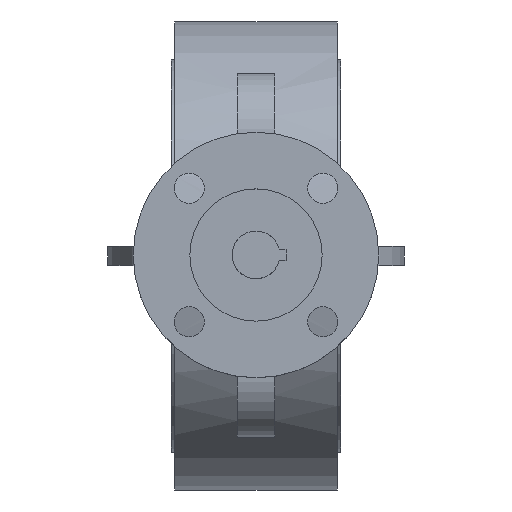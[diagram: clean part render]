
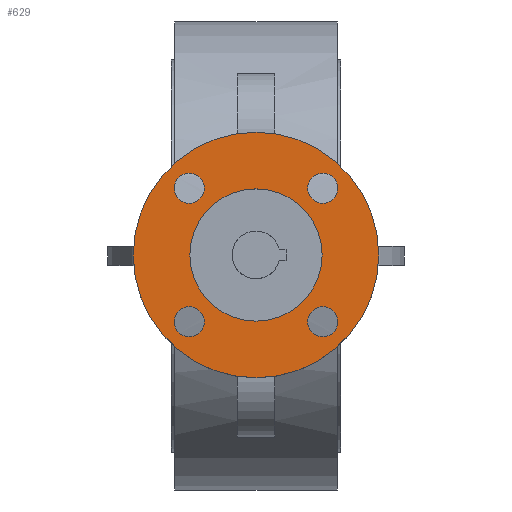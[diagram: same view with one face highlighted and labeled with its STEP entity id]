
A CAD part, top view. The second image highlights one B-rep face of the part: STEP entity #629.
In plain terms, the highlighted planar face has unit normal (0, 0, 1).
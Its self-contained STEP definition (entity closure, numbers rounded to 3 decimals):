
#629=ADVANCED_FACE('',(#1395,#1397,#1399,#1401,#1403,#1405),#1407,.T.);
#1395=FACE_BOUND('',#1396,.T.);
#1396=EDGE_LOOP('',(#1890));
#1397=FACE_BOUND('',#1398,.T.);
#1398=EDGE_LOOP('',(#1891));
#1399=FACE_BOUND('',#1400,.T.);
#1400=EDGE_LOOP('',(#1892));
#1401=FACE_BOUND('',#1402,.T.);
#1402=EDGE_LOOP('',(#1893));
#1403=FACE_BOUND('',#1404,.T.);
#1404=EDGE_LOOP('',(#1894));
#1405=FACE_BOUND('',#1406,.T.);
#1406=EDGE_LOOP('',(#1895));
#1407=PLANE('',#1408);
#1408=AXIS2_PLACEMENT_3D('',#1409,#1410,#1411);
#1409=CARTESIAN_POINT('',(0.,0.,153.));
#1410=DIRECTION('',(0.,0.,1.));
#1411=DIRECTION('',(0.,1.,0.));
#1890=ORIENTED_EDGE('',*,*,#2136,.F.);
#1891=ORIENTED_EDGE('',*,*,#2137,.T.);
#1892=ORIENTED_EDGE('',*,*,#2138,.T.);
#1893=ORIENTED_EDGE('',*,*,#2139,.T.);
#1894=ORIENTED_EDGE('',*,*,#2155,.T.);
#1895=ORIENTED_EDGE('',*,*,#2140,.T.);
#2136=EDGE_CURVE('',#2437,#2437,#2438,.T.);
#2137=EDGE_CURVE('',#2439,#2439,#2440,.F.);
#2138=EDGE_CURVE('',#2441,#2441,#2442,.F.);
#2139=EDGE_CURVE('',#2443,#2443,#2444,.F.);
#2140=EDGE_CURVE('',#2445,#2445,#2446,.F.);
#2155=EDGE_CURVE('',#2475,#2475,#2476,.T.);
#2437=VERTEX_POINT('',#3988);
#2438=CIRCLE('',#3989,32.5);
#2439=VERTEX_POINT('',#3993);
#2440=CIRCLE('',#3994,4.);
#2441=VERTEX_POINT('',#3998);
#2442=CIRCLE('',#3999,4.);
#2443=VERTEX_POINT('',#4003);
#2444=CIRCLE('',#4004,4.);
#2445=VERTEX_POINT('',#4008);
#2446=CIRCLE('',#4009,4.);
#2475=VERTEX_POINT('',#4076);
#2476=CIRCLE('',#4077,17.5);
#3988=CARTESIAN_POINT('',(0.,32.5,153.));
#3989=AXIS2_PLACEMENT_3D('',#3990,#3991,#3992);
#3990=CARTESIAN_POINT('',(0.,0.,153.));
#3991=DIRECTION('',(0.,0.,-1.));
#3992=DIRECTION('',(0.,1.,0.));
#3993=CARTESIAN_POINT('',(-13.678,-17.678,153.));
#3994=AXIS2_PLACEMENT_3D('',#3995,#3996,#3997);
#3995=CARTESIAN_POINT('',(-17.678,-17.678,153.));
#3996=DIRECTION('',(0.,0.,1.));
#3997=DIRECTION('',(1.,0.,0.));
#3998=CARTESIAN_POINT('',(-17.678,13.678,153.));
#3999=AXIS2_PLACEMENT_3D('',#4000,#4001,#4002);
#4000=CARTESIAN_POINT('',(-17.678,17.678,153.));
#4001=DIRECTION('',(0.,0.,1.));
#4002=DIRECTION('',(0.,-1.,0.));
#4003=CARTESIAN_POINT('',(13.678,17.678,153.));
#4004=AXIS2_PLACEMENT_3D('',#4005,#4006,#4007);
#4005=CARTESIAN_POINT('',(17.678,17.678,153.));
#4006=DIRECTION('',(0.,0.,1.));
#4007=DIRECTION('',(-1.,0.,0.));
#4008=CARTESIAN_POINT('',(17.678,-13.678,153.));
#4009=AXIS2_PLACEMENT_3D('',#4010,#4011,#4012);
#4010=CARTESIAN_POINT('',(17.678,-17.678,153.));
#4011=DIRECTION('',(0.,0.,1.));
#4012=DIRECTION('',(0.,1.,0.));
#4076=CARTESIAN_POINT('',(0.,17.5,153.));
#4077=AXIS2_PLACEMENT_3D('',#4078,#4079,#4080);
#4078=CARTESIAN_POINT('',(0.,0.,153.));
#4079=DIRECTION('',(0.,0.,-1.));
#4080=DIRECTION('',(0.,1.,0.));
